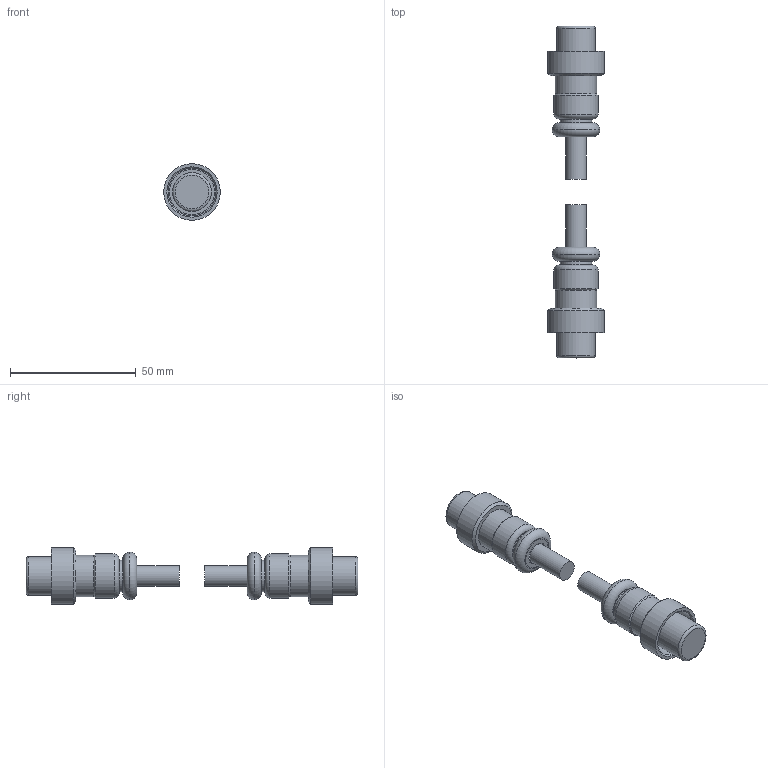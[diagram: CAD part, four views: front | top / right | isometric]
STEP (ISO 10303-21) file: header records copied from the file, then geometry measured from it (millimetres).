
FILE_DESCRIPTION(/* description */ (''),/* implementation_level */ '2;1');
FILE_NAME(/* name */ 'DCA-X-008947_A2.stp',/* time_stamp */ '2022-08-03T08:34:30+08:00',/* author */ (''),/* organization */ (''),/* preprocessor_version */ 'ST-DEVELOPER v16',/* originating_system */ 'SIEMENS PLM Software NX 10.0',/* authorisation */ '');
FILE_SCHEMA (('AUTOMOTIVE_DESIGN { 1 0 10303 214 3 1 1 1 }'));
Length unit declared in the file: millimetre
Products named in the file (1): zkrd2FE0DD5Ek4oj
Bounding box: 22.5 x 132 x 22.5 mm (x, y, z)
Volume: 21897 mm3; surface area: 11224.8 mm2
Topology: 8 solids, 8 shells, 62 faces, 108 edges, 72 vertices
Faces by surface type: plane 26, cylinder 22, torus 8, cone 6
Full cylindrical faces by diameter (mm): 8.2 x2, 9 x2, 12.5 x4, 15.5 x2, 16.5 x2, 17 x2, 17.5 x2, 18 x2, 19 x2, 22.5 x2
Entity records: 1290 total; most frequent: DIRECTION 242, CARTESIAN_POINT 179, AXIS2_PLACEMENT_3D 121, EDGE_LOOP 116, ORIENTED_EDGE 116, FACE_BOUND 108, ADVANCED_FACE 62, VERTEX_POINT 58
